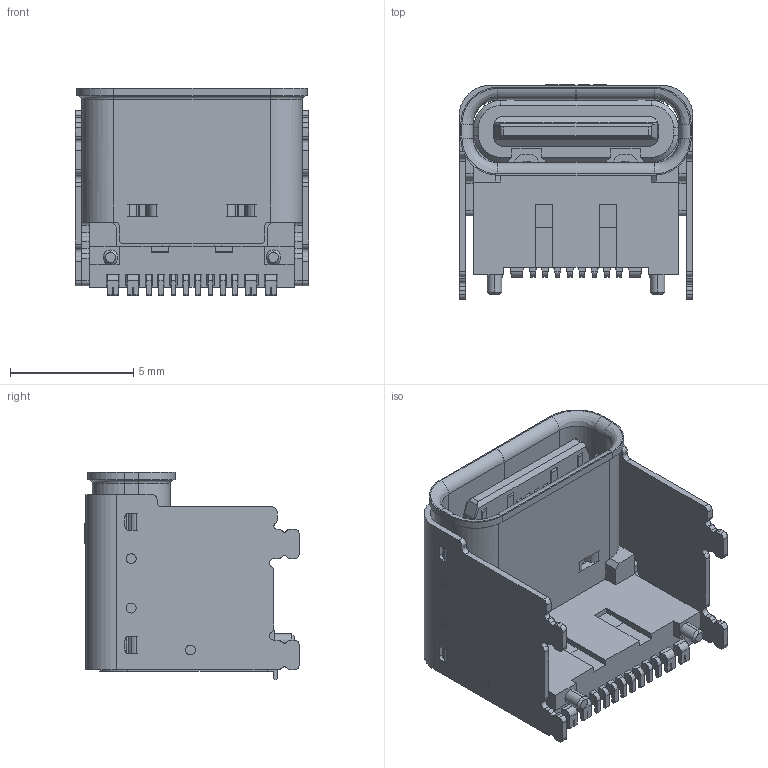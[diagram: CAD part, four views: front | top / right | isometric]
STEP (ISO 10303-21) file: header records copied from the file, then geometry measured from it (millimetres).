
FILE_DESCRIPTION((' '),'2;1');
FILE_NAME( 'U5100-16PNQ4.32G8.0L.stp', '2026-05-14T09:57:37', (' '), ('--- ---'), ' V2026.1 Dec 31 2025', ' 2026 (c)', ' ');
FILE_SCHEMA(('AP242_MANAGED_MODEL_BASED_3D_ENGINEERING_MIM_LF { 1 0 10303 442 1 1 4 }'));
Length unit declared in the file: millimetre
Products named in the file (1): U5100-16PNQ4.32G8.0L
Bounding box: 9.47 x 8.69 x 8.4 mm (x, y, z)
Volume: 235.9 mm3; surface area: 969.2 mm2
Topology: 1 solids, 1 shells, 998 faces, 2903 edges, 1894 vertices
Faces by surface type: plane 621, cylinder 312, bspline 57, cone 8
Entity records: 35134 total; most frequent: CARTESIAN_POINT 8568, ORIENTED_EDGE 5806, DIRECTION 5321, EDGE_CURVE 2903, VECTOR 2103, LINE 2103, VERTEX_POINT 1894, AXIS2_PLACEMENT_3D 1609
